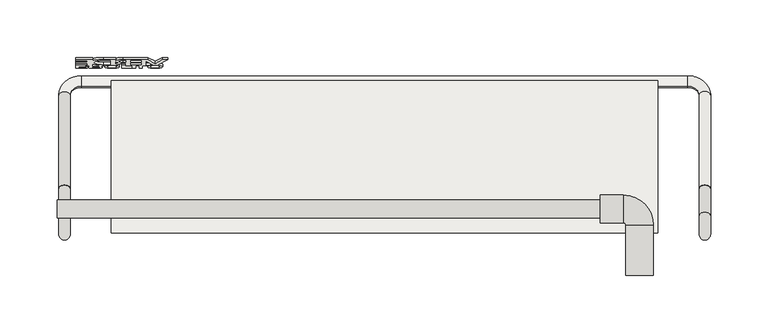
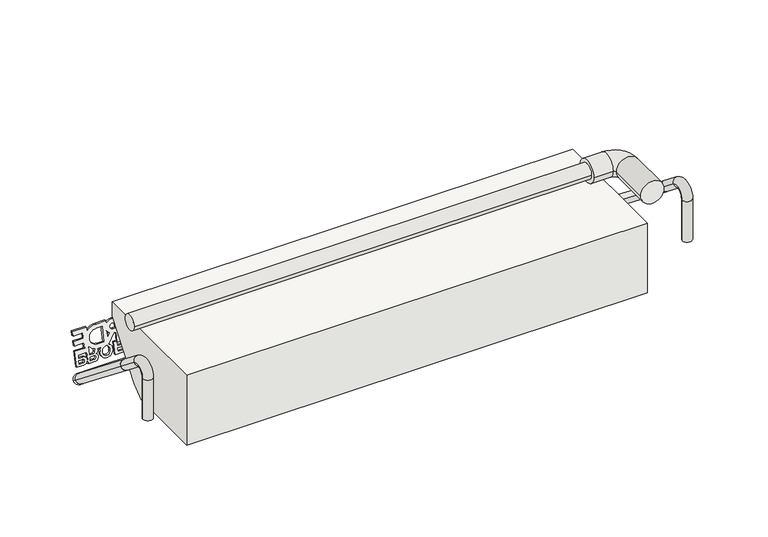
"""IFC4 building model written with IfcOpenShell, lengths in millimetres: covering geometry, panel VP Modulo prova ultima texture : panel VP Modulo prova ultima texture."""

from ifc_helpers import new_model, si_unit, point, frame, frame_2d, origin, place, context, project, spatial, polyline, circle_curve, ellipse_curve, trimmed, segment, composite_curve, outline, extrude, source, transform, mapped, element, save
from ifc_brep_helpers import plane_surface, cylinder_surface, revolved_surface, advanced_brep


def covering_d2c58fca(model_context):
    return source(origin(), model_context, "Body", "SolidModel", [
        extrude(outline(composite_curve([segment(polyline([(34.7220757, 0.0), (58.7996813, 0.0)]), True, "CONTINUOUS"), segment(trimmed(circle_curve(frame_2d((65.064279, 0.602523)), 6.293506), [point((58.7996813, 0.0))], [point((63.4156115, 6.6762462))], False, "CARTESIAN"), True, "CONTINUOUS"), segment(trimmed(circle_curve(frame_2d((65.6666707, 0.6823428)), 6.4026671), [point((63.4156115, 6.6762462))], [point((68.2653757, -5.1692278))], False, "CARTESIAN"), True, "CONTINUOUS"), segment(trimmed(circle_curve(frame_2d((65.2033193, 0.2002614)), 6.1812298), [point((68.2653757, -5.1692278))], [point((64.2093266, -5.9005239))], False, "CARTESIAN"), True, "CONTINUOUS"), segment(polyline([(64.2093266, -5.9005239), (66.3168223, -11.0476864), (75.8016954, -7.1641235), (76.862281, -9.7544046), (66.3136897, -14.073505), (67.4636632, -16.8820993), (78.0122546, -12.5629989), (79.0728402, -15.15328), (68.5242489, -19.4723804), (70.734808, -24.8712558), (61.6931831, -28.5733317), (62.6270622, -30.854156), (73.074875, -33.0832316)]), True, "CONTINUOUS"), segment(trimmed(circle_curve(frame_2d((79.2445531, -34.0648779)), 6.247284), [point((73.074875, -33.0832316))], [point((77.6263487, -28.0308102))], False, "CARTESIAN"), True, "CONTINUOUS"), segment(trimmed(circle_curve(frame_2d((79.877408, -34.0247136)), 6.4026671), [point((77.6263487, -28.0308102))], [point((82.4790998, -39.8749568))], False, "CARTESIAN"), True, "CONTINUOUS"), segment(trimmed(circle_curve(frame_2d((79.4067188, -34.4842118)), 6.2048092), [point((82.4790998, -39.8749568))], [point((77.0112198, -40.2079555))], False, "CARTESIAN"), True, "CONTINUOUS"), segment(polyline([(77.0112198, -40.2079555), (78.1993615, -43.1097685)]), True, "CONTINUOUS"), segment(trimmed(circle_curve(frame_2d((66.5130174, -47.6019204)), 12.5199867), [point((78.1993615, -43.1097685))], [point((78.4709528, -43.8927628))], False, "CARTESIAN"), True, "CONTINUOUS"), segment(polyline([(78.4709528, -43.8927628), (79.5384706, -43.4513167)]), True, "CONTINUOUS"), segment(trimmed(circle_curve(frame_2d((81.1236564, -46.5289179)), 3.4618554), [point((79.5384706, -43.4513167))], [point((83.2640668, -43.8080566))], False, "CARTESIAN"), True, "CONTINUOUS"), segment(trimmed(circle_curve(frame_2d((86.9930546, -44.5041075)), 3.7933939), [point((83.2640668, -43.8080566))], [point((90.5427255, -43.1663204))], False, "CARTESIAN"), True, "CONTINUOUS"), segment(polyline([(90.5427255, -43.1663204), (93.2835774, -49.8603365), (82.7349861, -54.1794368), (86.0955188, -62.3869066), (89.2825225, -61.0819941), (87.602256, -56.9782588)]), True, "CONTINUOUS"), segment(trimmed(circle_curve(frame_2d((91.2496312, -55.4763574)), 3.9444966), [point((87.602256, -56.9782588))], [point((87.6394877, -53.8870441))], False, "CARTESIAN"), True, "CONTINUOUS"), segment(trimmed(circle_curve(frame_2d((91.0795377, -55.4029609)), 3.7592483), [point((87.6394877, -53.8870441))], [point((89.8068057, -51.865716))], False, "CARTESIAN"), True, "CONTINUOUS"), segment(trimmed(circle_curve(frame_2d((91.3826275, -55.3791794)), 3.8506675), [point((89.8068057, -51.865716))], [point((94.9638437, -53.9640713))], False, "CARTESIAN"), True, "CONTINUOUS"), segment(polyline([(94.9638437, -53.9640713), (97.7046957, -60.6580874), (83.1186527, -66.6303145), (79.3291228, -57.3750995), (74.3249248, -59.4240587), (78.1144547, -68.6792737), (74.077003, -70.3324005), (70.2874731, -61.0771855), (65.283275, -63.1261447), (69.0728049, -72.3813598), (65.0353533, -74.0344866), (59.5536495, -60.6464545), (63.573194, -59.0006598)]), True, "CONTINUOUS"), segment(trimmed(circle_curve(frame_2d((67.4307018, -47.253167)), 12.364625), [point((63.573194, -59.0006598))], [point((55.9786182, -51.9151121))], False, "CARTESIAN"), True, "CONTINUOUS"), segment(polyline([(55.9786182, -51.9151121), (51.9745896, -42.1360244), (54.8949193, -40.940301)]), True, "CONTINUOUS"), segment(trimmed(circle_curve(frame_2d((56.8950264, -33.2916253)), 7.9058629), [point((54.8949193, -40.940301))], [point((49.6285766, -36.4063284))], False, "CARTESIAN"), True, "CONTINUOUS"), segment(polyline([(49.6285766, -36.4063284), (41.3068641, -16.0821088), (53.1289126, -4.4511801), (36.5446028, -4.4511801), (34.7220757, 0.0)]), True, "CONTINUOUS")], self_intersect=False), holes=[composite_curve([segment(polyline([(91.3698144, -60.2273564), (94.5568181, -58.9224439), (93.0429627, -55.2251363)]), True, "CONTINUOUS"), segment(trimmed(circle_curve(frame_2d((91.4494608, -55.8775925)), 1.7219023), [point((93.0429627, -55.2251363))], [point((89.855959, -56.5300488))], True, "CARTESIAN"), True, "CONTINUOUS"), segment(polyline([(89.855959, -56.5300488), (91.3698144, -60.2273564)]), True, "CONTINUOUS")], self_intersect=False), composite_curve([segment(polyline([(77.6536647, -53.2354382), (84.8614042, -50.2842432), (83.4804082, -46.9114199)]), True, "CONTINUOUS"), segment(trimmed(circle_curve(frame_2d((82.0055188, -47.9798171)), 1.8212006), [point((83.4804082, -46.9114199))], [point((81.4459172, -46.2467223))], True, "CARTESIAN"), True, "CONTINUOUS"), segment(polyline([(81.4459172, -46.2467223), (79.005401, -46.7813864)]), True, "CONTINUOUS"), segment(trimmed(circle_curve(frame_2d((66.800009, -47.5936694)), 12.2323913), [point((79.005401, -46.7813864))], [point((77.6536647, -53.2354382))], False, "CARTESIAN"), True, "CONTINUOUS")], self_intersect=False), composite_curve([segment(polyline([(80.0469884, -37.8463889), (81.818283, -37.1211357)]), True, "CONTINUOUS"), segment(trimmed(circle_curve(frame_2d((80.3714599, -33.8224141)), 3.6020635), [point((81.818283, -37.1211357))], [point((79.0874462, -30.4569765))], True, "CARTESIAN"), True, "CONTINUOUS"), segment(polyline([(79.0874462, -30.4569765), (77.318043, -31.1814552)]), True, "CONTINUOUS"), segment(trimmed(circle_curve(frame_2d((78.7640582, -34.4805346)), 3.6020668), [point((77.318043, -31.1814552))], [point((80.0469884, -37.8463889))], True, "CARTESIAN"), True, "CONTINUOUS")], self_intersect=False), composite_curve([segment(polyline([(64.8767089, 4.25008), (63.1073057, 3.5256013)]), True, "CONTINUOUS"), segment(trimmed(circle_curve(frame_2d((64.5533209, 0.2265218)), 3.6020668), [point((63.1073057, 3.5256013))], [point((65.8362512, -3.1393324))], True, "CARTESIAN"), True, "CONTINUOUS"), segment(polyline([(65.8362512, -3.1393324), (67.6075457, -2.4140793)]), True, "CONTINUOUS"), segment(trimmed(circle_curve(frame_2d((66.1607227, 0.8846423)), 3.6020635), [point((67.6075457, -2.4140793))], [point((64.8767089, 4.25008))], True, "CARTESIAN"), True, "CONTINUOUS")], self_intersect=False), composite_curve([segment(polyline([(49.3862172, -14.3776132), (62.966359, -8.8172503), (61.7031824, -5.7321785), (62.543491, -5.3881158)]), True, "CONTINUOUS"), segment(trimmed(circle_curve(frame_2d((65.2914898, 0.489271)), 6.4880792), [point((62.543491, -5.3881158))], [point((60.2929855, -3.647168))], False, "CARTESIAN"), True, "CONTINUOUS"), segment(polyline([(60.2929855, -3.647168), (49.3862172, -14.3776132)]), True, "CONTINUOUS")], self_intersect=False), polyline([(47.598802, -19.9351412), (50.9593347, -28.1426109), (55.9635327, -26.0936517), (52.603, -17.8861819), (47.598802, -19.9351412)]), polyline([(60.0009844, -24.4405249), (65.0051824, -22.3915657), (61.6446497, -14.1840959), (56.6404517, -16.2330551), (60.0009844, -24.4405249)]), composite_curve([segment(polyline([(52.6514049, -32.2754703), (53.692025, -34.8169896)]), True, "CONTINUOUS"), segment(trimmed(circle_curve(frame_2d((56.2265541, -33.8697215)), 2.7057631), [point((53.692025, -34.8169896))], [point((58.6823172, -32.7337722))], True, "CARTESIAN"), True, "CONTINUOUS"), segment(polyline([(58.6823172, -32.7337722), (57.6557066, -30.2264686), (52.6514049, -32.2754703)]), True, "CONTINUOUS")], self_intersect=False), composite_curve([segment(polyline([(62.001845, -38.030384), (66.4600603, -36.2049764), (63.0935891, -35.4866797)]), True, "CONTINUOUS"), segment(trimmed(circle_curve(frame_2d((53.824583, -33.01461)), 9.5929977), [point((63.0935891, -35.4866797))], [point((62.001845, -38.030384))], False, "CARTESIAN"), True, "CONTINUOUS")], self_intersect=False), composite_curve([segment(polyline([(57.7042151, -44.6157146), (60.0160697, -50.2619853)]), True, "CONTINUOUS"), segment(trimmed(circle_curve(frame_2d((67.1061304, -47.5504315)), 7.5908816), [point((60.0160697, -50.2619853))], [point((74.0619175, -44.5109401))], True, "CARTESIAN"), True, "CONTINUOUS"), segment(polyline([(74.0619175, -44.5109401), (71.7500629, -38.8646693), (57.7042151, -44.6157146)]), True, "CONTINUOUS")], self_intersect=False), composite_curve([segment(polyline([(86.9486962, -49.4296055), (90.1356999, -48.124693), (88.6218444, -44.4273854)]), True, "CONTINUOUS"), segment(trimmed(circle_curve(frame_2d((87.0283426, -45.0798417)), 1.7219023), [point((88.6218444, -44.4273854))], [point((85.4348407, -45.7322979))], True, "CARTESIAN"), True, "CONTINUOUS"), segment(polyline([(85.4348407, -45.7322979), (86.9486962, -49.4296055)]), True, "CONTINUOUS")], self_intersect=False)]), frame((-175.3240629, 210.3688908, 479.4713363), z_axis=(0.0, -0.9769248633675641, 0.21358326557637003), x_axis=(-0.3789159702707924, -0.19765659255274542, -0.9040766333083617)), (0.0, 0.0, 1.0), 2.0),
        extrude(outline(polyline([(76.2116947, -23.2064962), (79.3986984, -21.9015837), (77.1881392, -16.5027082), (79.2754312, -15.6480706), (82.5465759, -23.6372271), (70.9744162, -28.3754256), (69.9138306, -25.7851445), (74.1244027, -24.0611338), (71.9138436, -18.6622584), (74.0011355, -17.8076207), (76.2116947, -23.2064962)])), frame((-175.3240629, 210.3688908, 479.4713363), z_axis=(0.0, -0.9769248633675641, 0.21358326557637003), x_axis=(-0.3789159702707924, -0.19765659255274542, -0.9040766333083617)), (0.0, 0.0, 1.0), 2.0),
        advanced_brep(
        [(-284.4808119, 63.5015434, 543.1813202), (-284.4808119, 79.5015434, 543.1813202), (187.7808119, 63.5015434, 543.1813202), (187.7808119, 79.5015434, 543.1813202), (187.7808119, 59.5015434, 543.1813202), (187.7808119, 83.5015434, 543.1813202), (207.7808119, 59.5015434, 543.1813202), (207.7808119, 83.5015434, 543.1813202), (209.7808119, 57.5015434, 543.1813202), (233.7808119, 57.5015434, 543.1813202), (209.7808119, 13.5015434, 543.1813202), (233.7808119, 13.5015434, 543.1813202)],
        [
            (0, 1, circle_curve(frame((-284.4808119, 71.5015434, 543.1813202), z_axis=(-1.0, 0.0, 0.0), x_axis=(0.0, 1.0, 0.0)), 8.0)),
            (1, 0, circle_curve(frame((-284.4808119, 71.5015434, 543.1813202), z_axis=(-1.0, 0.0, 0.0), x_axis=(0.0, 1.0, 0.0)), 8.0)),
            (0, 2),
            (2, 3, circle_curve(frame((187.7808119, 71.5015434, 543.1813202), z_axis=(-1.0, 0.0, 0.0), x_axis=(0.0, 1.0, 0.0)), 8.0)),
            (3, 1),
            (3, 2, circle_curve(frame((187.7808119, 71.5015434, 543.1813202), z_axis=(-1.0, 0.0, 0.0), x_axis=(0.0, 1.0, 0.0)), 8.0)),
            (4, 5, circle_curve(frame((187.7808119, 71.5015434, 543.1813202), z_axis=(-1.0, 0.0, 0.0), x_axis=(0.0, 1.0, 0.0)), 12.0)),
            (5, 4, circle_curve(frame((187.7808119, 71.5015434, 543.1813202), z_axis=(-1.0, 0.0, 0.0), x_axis=(0.0, 1.0, 0.0)), 12.0)),
            (4, 6),
            (6, 7, circle_curve(frame((207.7808119, 71.5015434, 543.1813202), z_axis=(-1.0, 0.0, 0.0), x_axis=(0.0, 1.0, 0.0)), 12.0)),
            (7, 5),
            (7, 6, circle_curve(frame((207.7808119, 71.5015434, 543.1813202), z_axis=(-1.0, 0.0, 0.0), x_axis=(0.0, 1.0, 0.0)), 12.0)),
            (6, 8, circle_curve(frame((207.7808119, 57.5015434, 543.1813202), z_axis=(0.0, 0.0, -1.0), x_axis=(0.0, 1.0, 0.0)), 2.0)),
            (8, 9, circle_curve(frame((221.7808119, 57.5015434, 543.1813202), z_axis=(0.0, 1.0, 0.0), x_axis=(1.0, 0.0, 0.0)), 12.0)),
            (9, 7, circle_curve(frame((207.7808119, 57.5015434, 543.1813202), z_axis=(0.0, 0.0, 1.0), x_axis=(0.0, 1.0, 0.0)), 26.0)),
            (9, 8, circle_curve(frame((221.7808119, 57.5015434, 543.1813202), z_axis=(0.0, 1.0, 0.0), x_axis=(1.0, 0.0, 0.0)), 12.0)),
            (10, 11, circle_curve(frame((221.7808119, 13.5015434, 543.1813202), z_axis=(0.0, -1.0, 0.0), x_axis=(1.0, 0.0, 0.0)), 12.0)),
            (11, 10, circle_curve(frame((221.7808119, 13.5015434, 543.1813202), z_axis=(0.0, -1.0, 0.0), x_axis=(1.0, 0.0, 0.0)), 12.0)),
            (8, 10),
            (11, 9),
        ],
        [
            plane_surface(frame((-284.4808119, 63.5015434, 543.1813202), z_axis=(-1.0, 0.0, 0.0), x_axis=(0.0, 0.0, 1.0))),
            cylinder_surface(frame((-284.4808119, 71.5015434, 543.1813202), z_axis=(-1.0, 0.0, 0.0), x_axis=(0.0, 1.0, 0.0)), 8.0),
            plane_surface(frame((187.7808119, 63.5015434, 543.1813202), z_axis=(-1.0, 0.0, 0.0), x_axis=(0.0, 0.0, 1.0))),
            cylinder_surface(frame((187.7808119, 71.5015434, 543.1813202), z_axis=(-1.0, 0.0, 0.0), x_axis=(0.0, 1.0, 0.0)), 12.0),
            revolved_surface(trimmed(ellipse_curve(frame((207.7808119, 71.5015434, 543.1813202), z_axis=(-1.0, 0.0, 0.0), x_axis=(0.0, 1.0, 0.0)), 12.0, 12.0), [point((207.7808119, 59.5015434, 543.1813202))], [point((207.7808119, 83.5015434, 543.1813202))], True, "CARTESIAN"), (207.7808119, 57.5015434, 543.1813202), (0.0, 0.0, -1.0)),
            revolved_surface(trimmed(ellipse_curve(frame((207.7808119, 71.5015434, 543.1813202), z_axis=(-1.0, 0.0, 0.0), x_axis=(0.0, 1.0, 0.0)), 12.0, 12.0), [point((207.7808119, 83.5015434, 543.1813202))], [point((207.7808119, 59.5015434, 543.1813202))], True, "CARTESIAN"), (207.7808119, 57.5015434, 543.1813202), (0.0, 0.0, -1.0)),
            plane_surface(frame((213.7808119, 13.5015434, 543.1813202), z_axis=(0.0, -1.0, 0.0), x_axis=(0.0, 0.0, 1.0))),
            cylinder_surface(frame((221.7808119, 57.5015434, 543.1813202), z_axis=(0.0, 1.0, 0.0), x_axis=(1.0, 0.0, 0.0)), 12.0),
        ],
        [
            (0, [[1, 2]]),
            (1, [[-1, 3, 4, 5]]),
            (1, [[-2, -5, 6, -3]]),
            (2, [[7, 8], [-4, -6]]),
            (3, [[-7, 9, 10, 11]]),
            (3, [[-8, -11, 12, -9]]),
            (4, [[-10, 13, 14, 15]]),
            (5, [[-12, -15, 16, -13]]),
            (6, [[17, 18]]),
            (7, [[-14, 19, -18, 20]]),
            (7, [[-16, -20, -17, -19]]),
        ],
    ),
        advanced_brep(
        [(283.4808119, 89.2250572, 483.983262), (273.4808119, 89.2251428, 483.9833699), (283.4808119, 170.6491384, 419.463417), (273.4808119, 170.6492239, 419.463525), (263.4808119, 178.4869122, 413.2529982), (263.4808119, 186.324515, 407.0423635), (-263.4808119, 186.324515, 407.0423635), (-263.4808119, 178.4869122, 413.2529982), (-273.4808119, 170.6492239, 419.463525), (-283.4808119, 170.6491384, 419.463417), (-283.4808119, 89.2250494, 483.9832681), (-273.4808119, 89.225135, 483.9833761)],
        [
            (0, 1, circle_curve(frame((278.4808119, 89.2250572, 483.983262), z_axis=(0.0, -0.7837688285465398, 0.6210526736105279), x_axis=(1.0, 0.0, 0.0)), 5.0)),
            (1, 0, circle_curve(frame((278.4808119, 89.2250572, 483.983262), z_axis=(0.0, -0.7837688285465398, 0.6210526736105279), x_axis=(1.0, 0.0, 0.0)), 5.0)),
            (0, 2),
            (2, 3, circle_curve(frame((278.4808119, 170.6491384, 419.463417), z_axis=(0.0, -0.7837688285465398, 0.6210526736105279), x_axis=(1.0, 0.0, 0.0)), 5.0)),
            (3, 1),
            (3, 2, circle_curve(frame((278.4808119, 170.6491384, 419.463417), z_axis=(0.0, -0.7837688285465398, 0.6210526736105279), x_axis=(1.0, 0.0, 0.0)), 5.0)),
            (4, 3, circle_curve(frame((263.4808119, 170.6492239, 419.463525), z_axis=(0.0, -0.6210526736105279, -0.7837688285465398), x_axis=(1.0, 0.0, 0.0)), 10.0)),
            (2, 5, circle_curve(frame((263.4808119, 170.6491384, 419.463417), z_axis=(0.0, 0.6210526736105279, 0.7837688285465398), x_axis=(1.0, 0.0, 0.0)), 20.0)),
            (5, 4, circle_curve(frame((263.4808119, 182.4056708, 410.1476269), z_axis=(1.0, 0.0, 0.0), x_axis=(0.0, 0.7837688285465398, -0.6210526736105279)), 5.0)),
            (4, 5, circle_curve(frame((263.4808119, 182.4056708, 410.1476269), z_axis=(1.0, 0.0, 0.0), x_axis=(0.0, 0.7837688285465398, -0.6210526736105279)), 5.0)),
            (5, 6),
            (6, 7, circle_curve(frame((-263.4808119, 182.4056708, 410.1476269), z_axis=(1.0, 0.0, 0.0), x_axis=(0.0, 0.7837688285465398, -0.6210526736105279)), 5.0)),
            (7, 4),
            (7, 6, circle_curve(frame((-263.4808119, 182.4056708, 410.1476269), z_axis=(1.0, 0.0, 0.0), x_axis=(0.0, 0.7837688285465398, -0.6210526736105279)), 5.0)),
            (8, 7, circle_curve(frame((-263.4808119, 170.6492239, 419.463525), z_axis=(0.0, -0.6210526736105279, -0.7837688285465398), x_axis=(0.0, 0.7837688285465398, -0.6210526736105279)), 10.0)),
            (6, 9, circle_curve(frame((-263.4808119, 170.6491384, 419.463417), z_axis=(0.0, 0.6210526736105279, 0.7837688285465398), x_axis=(0.0, 0.7837688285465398, -0.6210526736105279)), 20.0)),
            (9, 8, circle_curve(frame((-278.4808119, 170.6491384, 419.463417), z_axis=(0.0, 0.7837688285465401, -0.6210526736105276), x_axis=(-1.0000000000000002, 0.0, 0.0)), 5.0)),
            (8, 9, circle_curve(frame((-278.4808119, 170.6491384, 419.463417), z_axis=(0.0, 0.7837688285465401, -0.6210526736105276), x_axis=(-1.0000000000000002, 0.0, 0.0)), 5.0)),
            (10, 11, circle_curve(frame((-278.4808119, 89.2250494, 483.9832681), z_axis=(0.0, -0.7837688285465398, 0.6210526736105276), x_axis=(-1.0, 0.0, 0.0)), 5.0)),
            (11, 10, circle_curve(frame((-278.4808119, 89.2250494, 483.9832681), z_axis=(0.0, -0.7837688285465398, 0.6210526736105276), x_axis=(-1.0, 0.0, 0.0)), 5.0)),
            (9, 10),
            (11, 8),
        ],
        [
            plane_surface(frame((273.4808119, 92.3304015, 487.9022082), z_axis=(0.0, -0.7837688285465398, 0.6210526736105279), x_axis=(0.0, -0.6210526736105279, -0.7837688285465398))),
            cylinder_surface(frame((278.4808119, 89.2250572, 483.983262), z_axis=(0.0, -0.7837688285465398, 0.6210526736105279), x_axis=(1.0, 0.0, 0.0)), 5.0),
            revolved_surface(trimmed(ellipse_curve(frame((278.4808119, 170.6491384, 419.463417), z_axis=(0.0, -0.7837688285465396, 0.6210526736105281), x_axis=(1.0, 0.0, 0.0)), 5.0, 5.0), [point((283.4808119, 170.6491384, 419.463417))], [point((273.4808119, 170.6492239, 419.463525))], True, "CARTESIAN"), (263.4808119, 173.7544827, 423.3823633), (0.0, 0.6210526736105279, 0.7837688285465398)),
            revolved_surface(trimmed(ellipse_curve(frame((278.4808119, 170.6491384, 419.463417), z_axis=(0.0, -0.7837688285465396, 0.6210526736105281), x_axis=(1.0, 0.0, 0.0)), 5.0, 5.0), [point((273.4808119, 170.6492239, 419.463525))], [point((283.4808119, 170.6491384, 419.463417))], True, "CARTESIAN"), (263.4808119, 173.7544827, 423.3823633), (0.0, 0.6210526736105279, 0.7837688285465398)),
            cylinder_surface(frame((263.4808119, 182.4056708, 410.1476269), z_axis=(1.0000000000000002, 0.0, 0.0), x_axis=(0.0, 0.7837688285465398, -0.6210526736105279)), 5.0),
            revolved_surface(trimmed(ellipse_curve(frame((-263.4808119, 182.4056708, 410.1476269), z_axis=(1.0000000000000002, 0.0, 0.0), x_axis=(0.0, 0.7837688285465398, -0.6210526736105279)), 5.0, 5.0), [point((-263.4808119, 186.324515, 407.0423635))], [point((-263.4808119, 178.4869122, 413.2529982))], True, "CARTESIAN"), (-263.4808119, 173.7544827, 423.3823633), (0.0, 0.6210526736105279, 0.7837688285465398)),
            revolved_surface(trimmed(ellipse_curve(frame((-263.4808119, 182.4056708, 410.1476269), z_axis=(1.0000000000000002, 0.0, 0.0), x_axis=(0.0, 0.7837688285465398, -0.6210526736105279)), 5.0, 5.0), [point((-263.4808119, 178.4869122, 413.2529982))], [point((-263.4808119, 186.324515, 407.0423635))], True, "CARTESIAN"), (-263.4808119, 173.7544827, 423.3823633), (0.0, 0.6210526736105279, 0.7837688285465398)),
            plane_surface(frame((-273.4808119, 92.3303937, 487.9022144), z_axis=(0.0, -0.7837688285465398, 0.6210526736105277), x_axis=(0.0, -0.6210526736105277, -0.7837688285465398))),
            cylinder_surface(frame((-278.4808119, 170.6491384, 419.463417), z_axis=(0.0, 0.7837688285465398, -0.6210526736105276), x_axis=(-1.0, 0.0, 0.0)), 5.0),
        ],
        [
            (0, [[1, 2]]),
            (1, [[-1, 3, 4, 5]]),
            (1, [[-2, -5, 6, -3]]),
            (2, [[7, -4, 8, 9]]),
            (3, [[-8, -6, -7, 10]]),
            (4, [[-9, 11, 12, 13]]),
            (4, [[-10, -13, 14, -11]]),
            (5, [[15, -12, 16, 17]]),
            (6, [[-16, -14, -15, 18]]),
            (7, [[19, 20]]),
            (8, [[-17, 21, -20, 22]]),
            (8, [[-18, -22, -19, -21]]),
        ],
    ),
        advanced_brep(
        [(-273.4808119, 89.225135, 483.9833761), (-283.4808119, 89.225135, 483.9833761), (-283.4808119, 65.7120701, 502.6149563), (-273.4808119, 65.7120701, 502.6149563), (-273.4808119, 49.5015434, 494.777268), (-283.4808119, 49.5015434, 494.777268), (-273.4808119, 49.5015434, 450.4751228), (-283.4808119, 49.5015434, 450.4751228)],
        [
            (0, 1, circle_curve(frame((-278.4808119, 89.225135, 483.9833761), z_axis=(0.0, 0.7837688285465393, -0.6210526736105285), x_axis=(-1.0, 0.0, 0.0)), 5.0)),
            (1, 0, circle_curve(frame((-278.4808119, 89.225135, 483.9833761), z_axis=(0.0, 0.7837688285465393, -0.6210526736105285), x_axis=(-1.0, 0.0, 0.0)), 5.0)),
            (1, 2),
            (2, 3, circle_curve(frame((-278.4808119, 65.7120701, 502.6149563), z_axis=(0.0, 0.7837688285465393, -0.6210526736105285), x_axis=(-1.0, 0.0, 0.0)), 5.0)),
            (3, 0),
            (3, 2, circle_curve(frame((-278.4808119, 65.7120701, 502.6149563), z_axis=(0.0, 0.7837688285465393, -0.6210526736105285), x_axis=(-1.0, 0.0, 0.0)), 5.0)),
            (4, 3, circle_curve(frame((-273.4808119, 59.5015434, 494.777268), z_axis=(-1.0, 0.0, 0.0), x_axis=(0.0, 0.6210526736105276, 0.78376882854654)), 10.0)),
            (2, 5, circle_curve(frame((-283.4808119, 59.5015434, 494.777268), z_axis=(1.0, 0.0, 0.0), x_axis=(0.0, 0.6210526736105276, 0.78376882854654)), 10.0)),
            (5, 4, circle_curve(frame((-278.4808119, 49.5015434, 494.777268), z_axis=(0.0, 0.0, 1.0), x_axis=(-1.0, 0.0, 0.0)), 5.0)),
            (4, 5, circle_curve(frame((-278.4808119, 49.5015434, 494.777268), z_axis=(0.0, 0.0, 1.0), x_axis=(-1.0, 0.0, 0.0)), 5.0)),
            (6, 7, circle_curve(frame((-278.4808119, 49.5015434, 450.4751228), z_axis=(0.0, 0.0, -1.0), x_axis=(-1.0, 0.0, 0.0)), 5.0)),
            (7, 6, circle_curve(frame((-278.4808119, 49.5015434, 450.4751228), z_axis=(0.0, 0.0, -1.0), x_axis=(-1.0, 0.0, 0.0)), 5.0)),
            (5, 7),
            (6, 4),
        ],
        [
            plane_surface(frame((-273.4808119, 89.225135, 483.9833761), z_axis=(0.0, 0.7837688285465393, -0.6210526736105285), x_axis=(-1.0, 0.0, 0.0))),
            cylinder_surface(frame((-278.4808119, 89.225135, 483.9833761), z_axis=(0.0, 0.7837688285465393, -0.6210526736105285), x_axis=(-1.0, 0.0, 0.0)), 5.0),
            revolved_surface(trimmed(ellipse_curve(frame((-278.4808119, 65.7120701, 502.6149563), z_axis=(0.0, 0.78376882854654, -0.6210526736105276), x_axis=(-1.0, 0.0, 0.0)), 5.0, 5.0), [point((-283.4808119, 65.7120701, 502.6149563))], [point((-273.4808119, 65.7120701, 502.6149563))], True, "CARTESIAN"), (-273.4808119, 59.5015434, 494.777268), (1.0, 0.0, 0.0)),
            revolved_surface(trimmed(ellipse_curve(frame((-278.4808119, 65.7120701, 502.6149563), z_axis=(0.0, 0.78376882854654, -0.6210526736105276), x_axis=(-1.0, 0.0, 0.0)), 5.0, 5.0), [point((-273.4808119, 65.7120701, 502.6149563))], [point((-283.4808119, 65.7120701, 502.6149563))], True, "CARTESIAN"), (-273.4808119, 59.5015434, 494.777268), (1.0, 0.0, 0.0)),
            plane_surface(frame((-273.4808119, 49.5015434, 450.4751228), z_axis=(0.0, 0.0, -1.0), x_axis=(-1.0, 0.0, 0.0))),
            cylinder_surface(frame((-278.4808119, 49.5015434, 494.777268), z_axis=(0.0, 0.0, 1.0), x_axis=(-1.0, 0.0, 0.0)), 5.0),
        ],
        [
            (0, [[1, 2]]),
            (1, [[-2, 3, 4, 5]]),
            (1, [[-1, -5, 6, -3]]),
            (2, [[7, -4, 8, 9]]),
            (3, [[-8, -6, -7, 10]]),
            (4, [[11, 12]]),
            (5, [[-9, 13, -11, 14]]),
            (5, [[-10, -14, -12, -13]]),
        ],
    ),
        advanced_brep(
        [(273.4808119, 89.2251242, 483.9833465), (283.4808119, 89.2251242, 483.9833465), (273.4808119, 65.7120779, 502.6149501), (283.4808119, 65.7120779, 502.6149501), (283.4808119, 49.5015434, 494.777268), (273.4808119, 49.5015434, 494.777268), (273.4808119, 49.5015434, 450.4751228), (283.4808119, 49.5015434, 450.4751228)],
        [
            (0, 1, circle_curve(frame((278.4808119, 89.2251242, 483.9833465), z_axis=(0.0, 0.7837682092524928, -0.621053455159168), x_axis=(1.0, 0.0, 0.0)), 5.0)),
            (1, 0, circle_curve(frame((278.4808119, 89.2251242, 483.9833465), z_axis=(0.0, 0.7837682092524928, -0.621053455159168), x_axis=(1.0, 0.0, 0.0)), 5.0)),
            (0, 2),
            (2, 3, circle_curve(frame((278.4808119, 65.7120779, 502.6149501), z_axis=(0.0, 0.7837682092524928, -0.621053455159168), x_axis=(1.0, 0.0, 0.0)), 5.0)),
            (3, 1),
            (3, 2, circle_curve(frame((278.4808119, 65.7120779, 502.6149501), z_axis=(0.0, 0.7837682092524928, -0.621053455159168), x_axis=(1.0, 0.0, 0.0)), 5.0)),
            (4, 3, circle_curve(frame((283.4808119, 59.5015434, 494.777268), z_axis=(-1.0, 0.0, 0.0), x_axis=(0.0, 0.6210534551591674, 0.7837682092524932)), 10.0)),
            (2, 5, circle_curve(frame((273.4808119, 59.5015434, 494.777268), z_axis=(1.0, 0.0, 0.0), x_axis=(0.0, 0.6210534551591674, 0.7837682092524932)), 10.0)),
            (5, 4, circle_curve(frame((278.4808119, 49.5015434, 494.777268), z_axis=(0.0, 0.0, 1.0), x_axis=(1.0, 0.0, 0.0)), 5.0)),
            (4, 5, circle_curve(frame((278.4808119, 49.5015434, 494.777268), z_axis=(0.0, 0.0, 1.0), x_axis=(1.0, 0.0, 0.0)), 5.0)),
            (6, 7, circle_curve(frame((278.4808119, 49.5015434, 450.4751228), z_axis=(0.0, 0.0, -1.0), x_axis=(1.0, 0.0, 0.0)), 5.0)),
            (7, 6, circle_curve(frame((278.4808119, 49.5015434, 450.4751228), z_axis=(0.0, 0.0, -1.0), x_axis=(1.0, 0.0, 0.0)), 5.0)),
            (5, 6),
            (7, 4),
        ],
        [
            plane_surface(frame((273.4808119, 89.2251242, 483.9833465), z_axis=(0.0, 0.7837682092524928, -0.621053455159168), x_axis=(1.0, 0.0, 0.0))),
            cylinder_surface(frame((278.4808119, 89.2251242, 483.9833465), z_axis=(0.0, 0.7837682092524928, -0.621053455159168), x_axis=(1.0, 0.0, 0.0)), 5.0),
            revolved_surface(trimmed(ellipse_curve(frame((278.4808119, 65.7120779, 502.6149501), z_axis=(0.0, 0.7837682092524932, -0.6210534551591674), x_axis=(1.0, 0.0, 0.0)), 5.0, 5.0), [point((273.4808119, 65.7120779, 502.6149501))], [point((283.4808119, 65.7120779, 502.6149501))], True, "CARTESIAN"), (273.4808119, 59.5015434, 494.777268), (1.0, 0.0, 0.0)),
            revolved_surface(trimmed(ellipse_curve(frame((278.4808119, 65.7120779, 502.6149501), z_axis=(0.0, 0.7837682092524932, -0.6210534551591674), x_axis=(1.0, 0.0, 0.0)), 5.0, 5.0), [point((283.4808119, 65.7120779, 502.6149501))], [point((273.4808119, 65.7120779, 502.6149501))], True, "CARTESIAN"), (273.4808119, 59.5015434, 494.777268), (1.0, 0.0, 0.0)),
            plane_surface(frame((273.4808119, 49.5015434, 450.4751228), z_axis=(0.0, 0.0, -1.0), x_axis=(1.0, 0.0, 0.0))),
            cylinder_surface(frame((278.4808119, 49.5015434, 494.777268), z_axis=(0.0, 0.0, 1.0), x_axis=(1.0, 0.0, 0.0)), 5.0),
        ],
        [
            (0, [[1, 2]]),
            (1, [[-1, 3, 4, 5]]),
            (1, [[-2, -5, 6, -3]]),
            (2, [[7, -4, 8, 9]]),
            (3, [[-8, -6, -7, 10]]),
            (4, [[11, 12]]),
            (5, [[-9, 13, -12, 14]]),
            (5, [[-10, -14, -11, -13]]),
        ],
    ),
        extrude(outline(polyline([(132.1625373, 405.5216565), (50.5015434, 405.5216565), (50.5015434, 481.5216565), (183.4941844, 481.5216565), (183.4941844, 465.8549334), (143.8388149, 415.8098381), (132.1625373, 405.5216565)])), frame((-237.7808119, 0.0, 0.0), z_axis=(1.0, 0.0, 0.0), x_axis=(0.0, 1.0, 0.0)), (0.0, 0.0, 1.0), 475.5616238),
    ])


if __name__ == "__main__":
    model = new_model("IFC4")
    model_context = context("Model", 3, world=origin())
    ifc_project = project(units=[si_unit("LENGTHUNIT", "METRE", prefix="MILLI")], contexts=[model_context])
    site = spatial("IfcSite", under=ifc_project)
    building = spatial("IfcBuilding", under=site)
    placement = place(None, origin())
    covering_shape = covering_d2c58fca(model_context)
    element("IfcCovering", 1, ObjectType="panel VP Modulo prova ultima texture : panel VP Modulo prova ultima texture", at=placement, inside=building, context=model_context, shape_type="MappedRepresentation", body=[
        mapped(covering_shape, transform((0.0, 0.0, 0.0), x_axis=(1.0, 0.0, 0.0), y_axis=(0.0, 1.0, 0.0), z_axis=(0.0, 0.0, 1.0))),
    ])
    save(model, "model.ifc")
